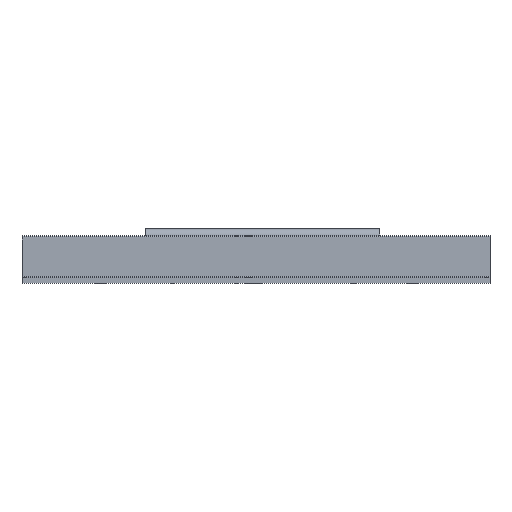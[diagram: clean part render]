
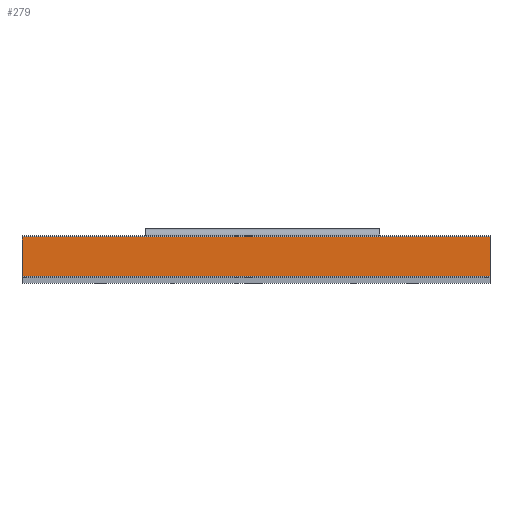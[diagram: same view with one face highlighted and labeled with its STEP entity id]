
A CAD part, front view. The second image highlights one B-rep face of the part: STEP entity #279.
In plain terms, the highlighted planar face has unit normal (0, -1, 0).
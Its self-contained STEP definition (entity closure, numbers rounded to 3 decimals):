
#221=CARTESIAN_POINT('',(300.0,14.5,4.4));
#222=VERTEX_POINT('',#221);
#230=CARTESIAN_POINT('',(0.0,14.5,4.4));
#231=VERTEX_POINT('',#230);
#232=CARTESIAN_POINT('',(0.0,14.5,4.4));
#233=DIRECTION('',(1.0,0.0,0.0));
#234=VECTOR('',#233,300.0);
#235=LINE('',#232,#234);
#236=EDGE_CURVE('',#231,#222,#235,.T.);
#249=CARTESIAN_POINT('',(0.0,14.5,4.4));
#250=DIRECTION('',(0.0,-1.0,0.0));
#251=DIRECTION('',(0.0,0.0,-1.0));
#252=AXIS2_PLACEMENT_3D('',#249,#250,#251);
#253=PLANE('',#252);
#254=CARTESIAN_POINT('',(300.0,14.5,29.7));
#255=VERTEX_POINT('',#254);
#256=CARTESIAN_POINT('',(300.0,14.5,4.4));
#257=DIRECTION('',(0.0,0.0,1.0));
#258=VECTOR('',#257,25.3);
#259=LINE('',#256,#258);
#260=EDGE_CURVE('',#222,#255,#259,.T.);
#261=ORIENTED_EDGE('',*,*,#260,.T.);
#262=CARTESIAN_POINT('',(0.0,14.5,29.7));
#263=VERTEX_POINT('',#262);
#264=CARTESIAN_POINT('',(0.0,14.5,29.7));
#265=DIRECTION('',(1.0,0.0,0.0));
#266=VECTOR('',#265,300.0);
#267=LINE('',#264,#266);
#268=EDGE_CURVE('',#263,#255,#267,.T.);
#269=ORIENTED_EDGE('',*,*,#268,.F.);
#270=CARTESIAN_POINT('',(0.0,14.5,29.7));
#271=DIRECTION('',(0.0,0.0,-1.0));
#272=VECTOR('',#271,25.3);
#273=LINE('',#270,#272);
#274=EDGE_CURVE('',#263,#231,#273,.T.);
#275=ORIENTED_EDGE('',*,*,#274,.T.);
#276=ORIENTED_EDGE('',*,*,#236,.T.);
#277=EDGE_LOOP('',(#261,#269,#275,#276));
#278=FACE_OUTER_BOUND('',#277,.T.);
#279=ADVANCED_FACE('',(#278),#253,.T.);
